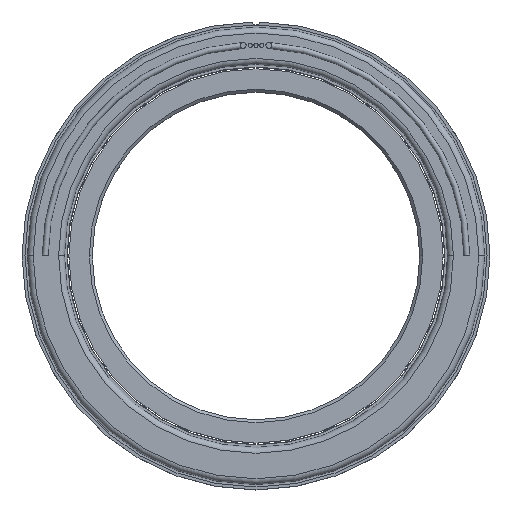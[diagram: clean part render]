
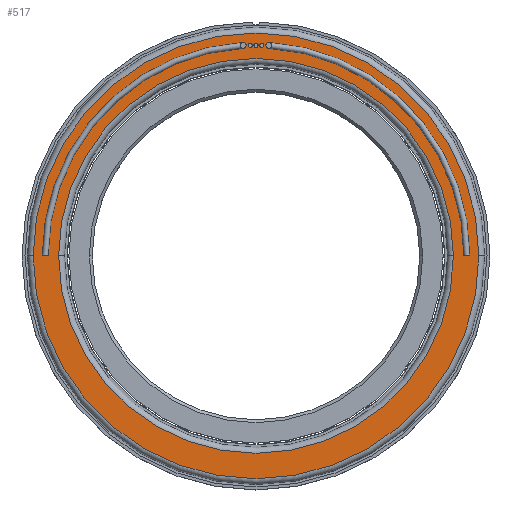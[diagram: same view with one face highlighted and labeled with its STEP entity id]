
A CAD part, top view. The second image highlights one B-rep face of the part: STEP entity #517.
In plain terms, the highlighted planar face has unit normal (0, 0, 1).
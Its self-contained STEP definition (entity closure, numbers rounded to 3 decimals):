
#4 = CARTESIAN_POINT ( 'NONE',  ( 0., 0., 28.448 ) ) ;
#116 = EDGE_CURVE ( 'NONE', #268, #2161, #1671, .T. ) ;
#120 = DIRECTION ( 'NONE',  ( 1., 0., 0. ) ) ;
#131 = CARTESIAN_POINT ( 'NONE',  ( 0., 0., 28.448 ) ) ;
#168 = DIRECTION ( 'NONE',  ( 1., 0., 0. ) ) ;
#246 = EDGE_CURVE ( 'NONE', #2161, #268, #2652, .T. ) ;
#268 = VERTEX_POINT ( 'NONE', #2097 ) ;
#292 = VERTEX_POINT ( 'NONE', #453 ) ;
#399 = DIRECTION ( 'NONE',  ( 0., 0., -1. ) ) ;
#453 = CARTESIAN_POINT ( 'NONE',  ( 96.774, 0., 28.448 ) ) ;
#517 = ADVANCED_FACE ( 'NONE', ( #1397, #615 ), #2663, .T. ) ;
#579 = DIRECTION ( 'NONE',  ( 0., 0., -1. ) ) ;
#598 = ORIENTED_EDGE ( 'NONE', *, *, #246, .T. ) ;
#615 = FACE_OUTER_BOUND ( 'NONE', #3060, .T. ) ;
#657 = CARTESIAN_POINT ( 'NONE',  ( -96.774, 0., 28.448 ) ) ;
#671 = CIRCLE ( 'NONE', #2116, 96.774 ) ;
#967 = CARTESIAN_POINT ( 'NONE',  ( 0., 0., 28.448 ) ) ;
#1066 = AXIS2_PLACEMENT_3D ( 'NONE', #131, #579, #120 ) ;
#1130 = CARTESIAN_POINT ( 'NONE',  ( 0., 0., 28.448 ) ) ;
#1175 = CARTESIAN_POINT ( 'NONE',  ( -85.725, 0., 28.448 ) ) ;
#1198 = DIRECTION ( 'NONE',  ( 0., 0., 1. ) ) ;
#1202 = DIRECTION ( 'NONE',  ( 0., 0., 1. ) ) ;
#1219 = AXIS2_PLACEMENT_3D ( 'NONE', #1606, #399, #168 ) ;
#1397 = FACE_BOUND ( 'NONE', #2775, .T. ) ;
#1441 = DIRECTION ( 'NONE',  ( 1., 0., 0. ) ) ;
#1461 = ORIENTED_EDGE ( 'NONE', *, *, #1590, .T. ) ;
#1590 = EDGE_CURVE ( 'NONE', #2907, #292, #2460, .T. ) ;
#1600 = DIRECTION ( 'NONE',  ( 1., 0., 0. ) ) ;
#1606 = CARTESIAN_POINT ( 'NONE',  ( 0., 0., 28.448 ) ) ;
#1671 = CIRCLE ( 'NONE', #1066, 85.725 ) ;
#1778 = ORIENTED_EDGE ( 'NONE', *, *, #116, .T. ) ;
#1881 = DIRECTION ( 'NONE',  ( 0., 0., 1. ) ) ;
#2026 = ORIENTED_EDGE ( 'NONE', *, *, #2881, .T. ) ;
#2097 = CARTESIAN_POINT ( 'NONE',  ( 85.725, 0., 28.448 ) ) ;
#2116 = AXIS2_PLACEMENT_3D ( 'NONE', #1130, #1881, #1600 ) ;
#2161 = VERTEX_POINT ( 'NONE', #1175 ) ;
#2460 = CIRCLE ( 'NONE', #2479, 96.774 ) ;
#2479 = AXIS2_PLACEMENT_3D ( 'NONE', #4, #1202, #2915 ) ;
#2582 = AXIS2_PLACEMENT_3D ( 'NONE', #967, #1198, #1441 ) ;
#2652 = CIRCLE ( 'NONE', #1219, 85.725 ) ;
#2663 = PLANE ( 'NONE',  #2582 ) ;
#2775 = EDGE_LOOP ( 'NONE', ( #1778, #598 ) ) ;
#2881 = EDGE_CURVE ( 'NONE', #292, #2907, #671, .T. ) ;
#2907 = VERTEX_POINT ( 'NONE', #657 ) ;
#2915 = DIRECTION ( 'NONE',  ( 1., 0., 0. ) ) ;
#3060 = EDGE_LOOP ( 'NONE', ( #2026, #1461 ) ) ;
